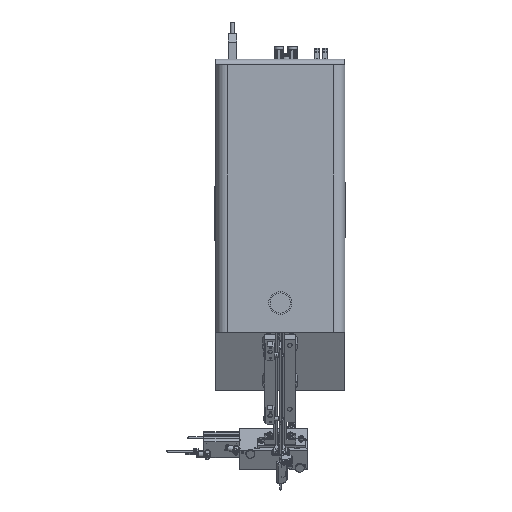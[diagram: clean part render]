
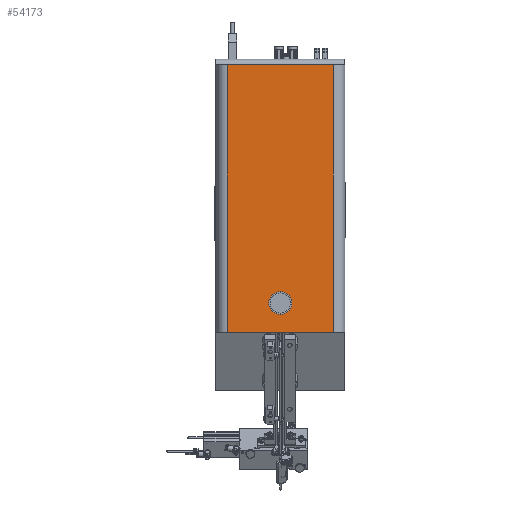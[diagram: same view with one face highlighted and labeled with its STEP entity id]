
A CAD part, top view. The second image highlights one B-rep face of the part: STEP entity #54173.
In plain terms, the highlighted planar face has unit normal (0, 0, 1).
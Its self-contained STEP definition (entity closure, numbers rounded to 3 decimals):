
#5405=CIRCLE('',#58716,10.);
#5406=CIRCLE('',#58717,10.);
#7045=FACE_BOUND('',#12600,.T.);
#9424=FACE_OUTER_BOUND('',#12599,.T.);
#12599=EDGE_LOOP('',(#47324,#47325,#47326,#47327));
#12600=EDGE_LOOP('',(#47328,#47329));
#17054=LINE('',#94918,#21574);
#17080=LINE('',#94985,#21600);
#17085=LINE('',#94999,#21605);
#17086=LINE('',#95000,#21606);
#21574=VECTOR('',#71490,10.);
#21600=VECTOR('',#71548,184.);
#21605=VECTOR('',#71565,464.);
#21606=VECTOR('',#71566,10.);
#26435=VERTEX_POINT('',#94904);
#26436=VERTEX_POINT('',#94905);
#26440=VERTEX_POINT('',#94915);
#26441=VERTEX_POINT('',#94917);
#26465=VERTEX_POINT('',#94982);
#26466=VERTEX_POINT('',#94984);
#33576=EDGE_CURVE('',#26435,#26436,#5405,.T.);
#33577=EDGE_CURVE('',#26436,#26435,#5406,.T.);
#33582=EDGE_CURVE('',#26440,#26441,#17054,.T.);
#33615=EDGE_CURVE('',#26465,#26466,#17080,.T.);
#33623=EDGE_CURVE('',#26466,#26440,#17085,.T.);
#33624=EDGE_CURVE('',#26465,#26441,#17086,.T.);
#47324=ORIENTED_EDGE('',*,*,#33623,.F.);
#47325=ORIENTED_EDGE('',*,*,#33615,.F.);
#47326=ORIENTED_EDGE('',*,*,#33624,.T.);
#47327=ORIENTED_EDGE('',*,*,#33582,.F.);
#47328=ORIENTED_EDGE('',*,*,#33576,.T.);
#47329=ORIENTED_EDGE('',*,*,#33577,.T.);
#51603=PLANE('',#58741);
#54173=ADVANCED_FACE('',(#9424,#7045),#51603,.F.);
#58716=AXIS2_PLACEMENT_3D('',#94906,#71479,#71480);
#58717=AXIS2_PLACEMENT_3D('',#94907,#71481,#71482);
#58741=AXIS2_PLACEMENT_3D('',#94998,#71563,#71564);
#71479=DIRECTION('center_axis',(0.,0.,-1.));
#71480=DIRECTION('ref_axis',(1.,0.,0.));
#71481=DIRECTION('center_axis',(0.,0.,-1.));
#71482=DIRECTION('ref_axis',(1.,0.,0.));
#71490=DIRECTION('',(-1.,0.,0.));
#71548=DIRECTION('',(1.,0.,0.));
#71563=DIRECTION('center_axis',(0.,0.,-1.));
#71564=DIRECTION('ref_axis',(-1.,0.,0.));
#71565=DIRECTION('',(0.,-1.,0.));
#71566=DIRECTION('',(0.,-1.,0.));
#94904=CARTESIAN_POINT('',(10.5,51.,516.5));
#94905=CARTESIAN_POINT('',(-9.5,51.,516.5));
#94906=CARTESIAN_POINT('Origin',(0.5,51.,516.5));
#94907=CARTESIAN_POINT('Origin',(0.5,51.,516.5));
#94915=CARTESIAN_POINT('',(92.5,0.,516.5));
#94917=CARTESIAN_POINT('',(-91.5,0.,516.5));
#94918=CARTESIAN_POINT('',(92.5,0.,516.5));
#94982=CARTESIAN_POINT('',(-91.5,465.,516.5));
#94984=CARTESIAN_POINT('',(92.5,465.,516.5));
#94985=CARTESIAN_POINT('',(-91.5,465.,516.5));
#94998=CARTESIAN_POINT('Origin',(-91.5,465.,516.5));
#94999=CARTESIAN_POINT('',(92.5,465.,516.5));
#95000=CARTESIAN_POINT('',(-91.5,1.,516.5));
